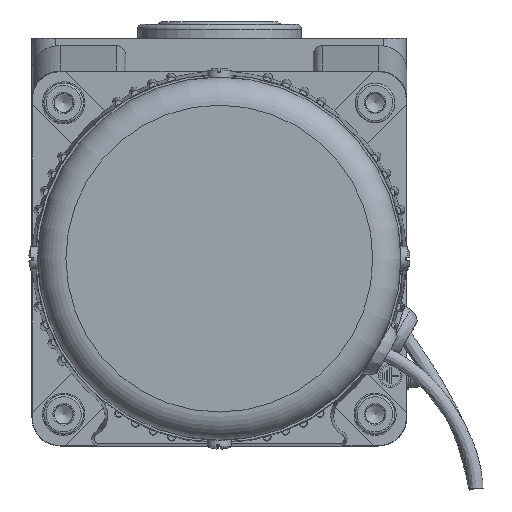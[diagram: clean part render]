
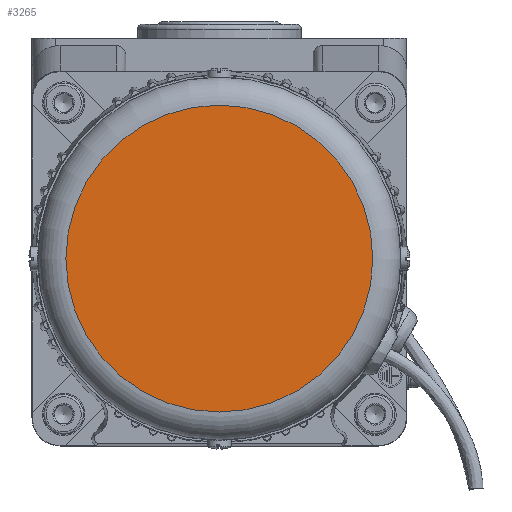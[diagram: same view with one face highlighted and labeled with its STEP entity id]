
A CAD part, left-side view. The second image highlights one B-rep face of the part: STEP entity #3265.
In plain terms, the highlighted planar face has unit normal (-1, 0, 0).
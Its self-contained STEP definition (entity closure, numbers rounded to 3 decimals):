
#3265=ADVANCED_FACE('',(#4751),#4074,.F.);
#4074=PLANE('',#17486);
#4751=FACE_OUTER_BOUND('',#5744,.T.);
#5744=EDGE_LOOP('',(#8693));
#8693=ORIENTED_EDGE('',*,*,#13826,.F.);
#11976=VERTEX_POINT('',#28514);
#13826=EDGE_CURVE('',#11976,#11976,#16389,.T.);
#16389=CIRCLE('',#17411,32.75);
#17411=AXIS2_PLACEMENT_3D('',#28513,#19643,#19644);
#17486=AXIS2_PLACEMENT_3D('',#33660,#19793,#19794);
#19643=DIRECTION('',(1.,0.,0.));
#19644=DIRECTION('',(0.,0.,-1.));
#19793=DIRECTION('',(1.,0.,0.));
#19794=DIRECTION('',(0.,0.,-1.));
#28513=CARTESIAN_POINT('',(-132.,40.,40.));
#28514=CARTESIAN_POINT('',(-132.,40.,7.25));
#33660=CARTESIAN_POINT('',(-132.,40.,40.));
